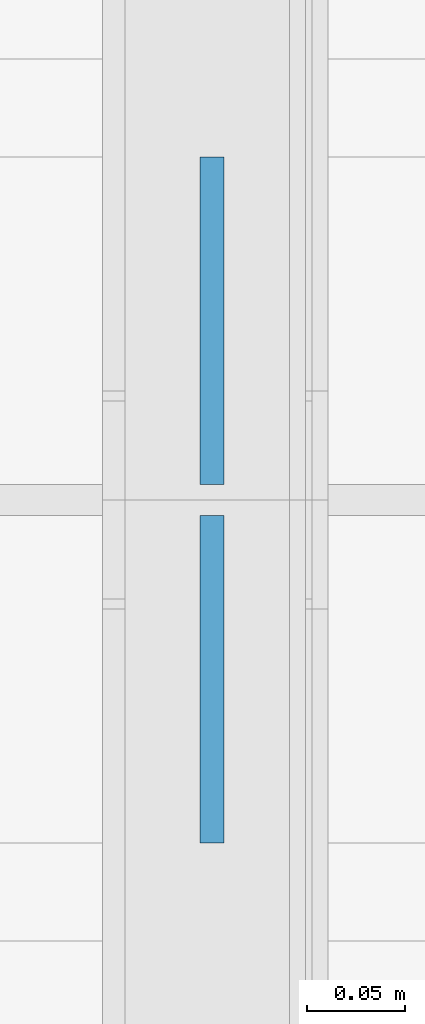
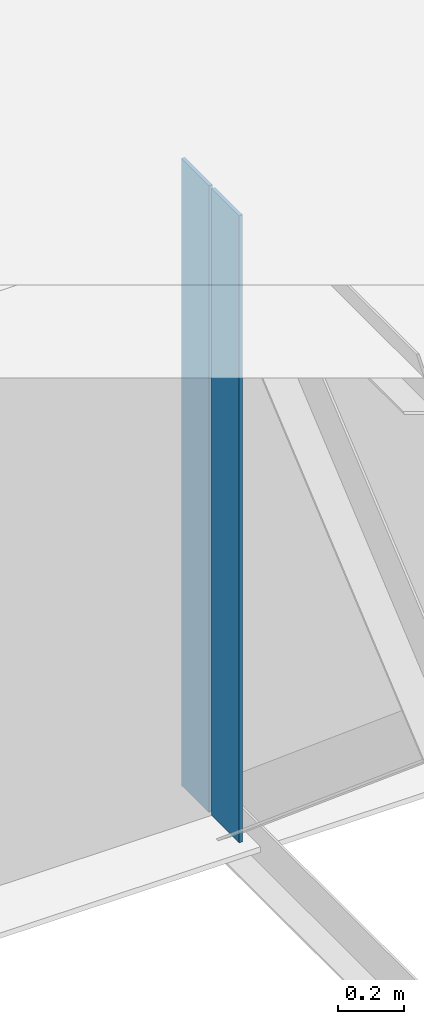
# One storey, part 14 of 19: 2 plates.
"""IFC4 building model written with IfcOpenShell, lengths in metres."""

from ifc_helpers import new_model, si_unit, frame, origin, origin_with_axes, origin_2d_with_axis, place, context, subcontext, project, spatial, rectangle, extrude, element, save


model = new_model("IFC4")

# Units and contexts
model_context = context("Model", 3, precision=1e-05, world=origin())
body_context = subcontext(model_context, "Body", "Model", "MODEL_VIEW")
ifc_project = project(units=[si_unit("LENGTHUNIT", "METRE"), si_unit("AREAUNIT", "SQUARE_METRE"), si_unit("VOLUMEUNIT", "CUBIC_METRE"), si_unit("PLANEANGLEUNIT", "RADIAN")], contexts=[model_context])

# Site, building, storey
site_placement = place(None, origin_with_axes())
site = spatial("IfcSite", under=ifc_project, at=site_placement, Name="Default Site")
building_placement = place(site_placement, origin_with_axes())
building = spatial("IfcBuilding", under=site, at=building_placement, Name="Bridge Structure")
storey_placement = place(building_placement, origin_with_axes())
storey = spatial("IfcBuildingStorey", under=building, at=storey_placement, Name="Superstructure")

# Plates
for number, where, z_axis, x_axis, name in (
    (1, (16.665, 2.8415, -1.157), (0.0, 0.0, 1.0), (1.0, 0.0, 0.0), "Intermediate Stiffener 4"),
    (2, (16.665, 2.6585, -1.157), (0.0, 0.0, 1.0), (1.0, 0.0, 0.0), "Intermediate Stiffener 4"),
):
    element("IfcPlate", number, at=place(storey_placement, frame(where, z_axis=z_axis, x_axis=x_axis)), inside=storey, Name=name, context=body_context, shape_type="SweptSolid", body=[
        extrude(rectangle(XDim=0.012, YDim=0.167, at=origin_2d_with_axis()), origin_with_axes(), (0.0, 0.0, 1.0), 2.314),
    ])

save(model, "model.ifc")
